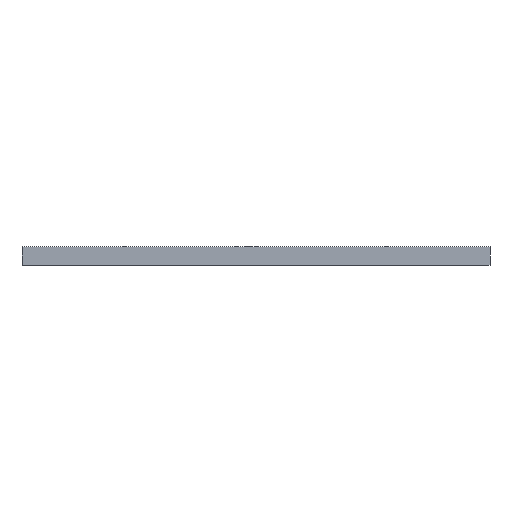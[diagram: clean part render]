
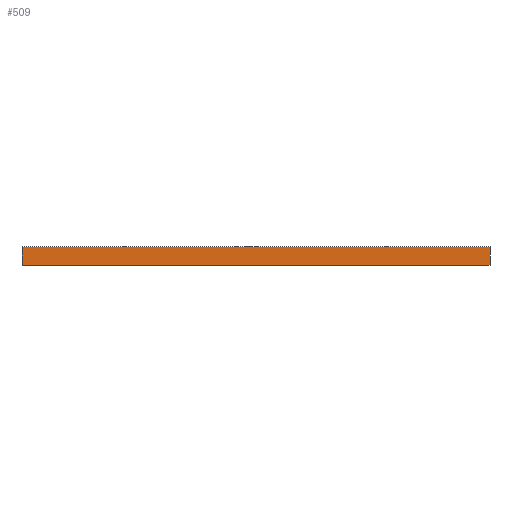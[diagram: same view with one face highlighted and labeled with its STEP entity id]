
A CAD part, front view. The second image highlights one B-rep face of the part: STEP entity #509.
In plain terms, the highlighted planar face has unit normal (0, -1, 0).
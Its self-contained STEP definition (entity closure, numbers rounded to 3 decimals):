
#21 = EDGE_CURVE('',#22,#24,#26,.T.);
#22 = VERTEX_POINT('',#23);
#23 = CARTESIAN_POINT('',(0.,0.,18.));
#24 = VERTEX_POINT('',#25);
#25 = CARTESIAN_POINT('',(464.,0.,18.));
#26 = SURFACE_CURVE('',#27,(#31,#43),.PCURVE_S1.);
#27 = LINE('',#28,#29);
#28 = CARTESIAN_POINT('',(0.,0.,18.));
#29 = VECTOR('',#30,1.);
#30 = DIRECTION('',(1.,0.,0.));
#31 = PCURVE('',#32,#37);
#32 = PLANE('',#33);
#33 = AXIS2_PLACEMENT_3D('',#34,#35,#36);
#34 = CARTESIAN_POINT('',(0.,0.,18.));
#35 = DIRECTION('',(0.,0.,-1.));
#36 = DIRECTION('',(1.,0.,0.));
#37 = DEFINITIONAL_REPRESENTATION('',(#38),#42);
#38 = LINE('',#39,#40);
#39 = CARTESIAN_POINT('',(0.,0.));
#40 = VECTOR('',#41,1.);
#41 = DIRECTION('',(1.,0.));
#42 = ( GEOMETRIC_REPRESENTATION_CONTEXT(2) 
PARAMETRIC_REPRESENTATION_CONTEXT() REPRESENTATION_CONTEXT('2D SPACE',''
  ) );
#43 = PCURVE('',#44,#49);
#44 = PLANE('',#45);
#45 = AXIS2_PLACEMENT_3D('',#46,#47,#48);
#46 = CARTESIAN_POINT('',(0.,0.,18.));
#47 = DIRECTION('',(0.,1.,0.));
#48 = DIRECTION('',(1.,0.,0.));
#49 = DEFINITIONAL_REPRESENTATION('',(#50),#54);
#50 = LINE('',#51,#52);
#51 = CARTESIAN_POINT('',(0.,0.));
#52 = VECTOR('',#53,1.);
#53 = DIRECTION('',(1.,0.));
#54 = ( GEOMETRIC_REPRESENTATION_CONTEXT(2) 
PARAMETRIC_REPRESENTATION_CONTEXT() REPRESENTATION_CONTEXT('2D SPACE',''
  ) );
#72 = PLANE('',#73);
#73 = AXIS2_PLACEMENT_3D('',#74,#75,#76);
#74 = CARTESIAN_POINT('',(0.,0.,18.));
#75 = DIRECTION('',(1.,0.,0.));
#76 = DIRECTION('',(0.,0.,-1.));
#126 = PLANE('',#127);
#127 = AXIS2_PLACEMENT_3D('',#128,#129,#130);
#128 = CARTESIAN_POINT('',(464.,0.,18.));
#129 = DIRECTION('',(1.,0.,0.));
#130 = DIRECTION('',(0.,0.,-1.));
#509 = ADVANCED_FACE('',(#510),#44,.F.);
#510 = FACE_BOUND('',#511,.F.);
#511 = EDGE_LOOP('',(#512,#535,#536,#559));
#512 = ORIENTED_EDGE('',*,*,#513,.F.);
#513 = EDGE_CURVE('',#22,#514,#516,.T.);
#514 = VERTEX_POINT('',#515);
#515 = CARTESIAN_POINT('',(0.,0.,0.));
#516 = SURFACE_CURVE('',#517,(#521,#528),.PCURVE_S1.);
#517 = LINE('',#518,#519);
#518 = CARTESIAN_POINT('',(0.,0.,18.));
#519 = VECTOR('',#520,1.);
#520 = DIRECTION('',(0.,0.,-1.));
#521 = PCURVE('',#44,#522);
#522 = DEFINITIONAL_REPRESENTATION('',(#523),#527);
#523 = LINE('',#524,#525);
#524 = CARTESIAN_POINT('',(0.,0.));
#525 = VECTOR('',#526,1.);
#526 = DIRECTION('',(0.,1.));
#527 = ( GEOMETRIC_REPRESENTATION_CONTEXT(2) 
PARAMETRIC_REPRESENTATION_CONTEXT() REPRESENTATION_CONTEXT('2D SPACE',''
  ) );
#528 = PCURVE('',#72,#529);
#529 = DEFINITIONAL_REPRESENTATION('',(#530),#534);
#530 = LINE('',#531,#532);
#531 = CARTESIAN_POINT('',(0.,0.));
#532 = VECTOR('',#533,1.);
#533 = DIRECTION('',(1.,0.));
#534 = ( GEOMETRIC_REPRESENTATION_CONTEXT(2) 
PARAMETRIC_REPRESENTATION_CONTEXT() REPRESENTATION_CONTEXT('2D SPACE',''
  ) );
#535 = ORIENTED_EDGE('',*,*,#21,.T.);
#536 = ORIENTED_EDGE('',*,*,#537,.T.);
#537 = EDGE_CURVE('',#24,#538,#540,.T.);
#538 = VERTEX_POINT('',#539);
#539 = CARTESIAN_POINT('',(464.,0.,0.));
#540 = SURFACE_CURVE('',#541,(#545,#552),.PCURVE_S1.);
#541 = LINE('',#542,#543);
#542 = CARTESIAN_POINT('',(464.,0.,18.));
#543 = VECTOR('',#544,1.);
#544 = DIRECTION('',(0.,0.,-1.));
#545 = PCURVE('',#44,#546);
#546 = DEFINITIONAL_REPRESENTATION('',(#547),#551);
#547 = LINE('',#548,#549);
#548 = CARTESIAN_POINT('',(464.,0.));
#549 = VECTOR('',#550,1.);
#550 = DIRECTION('',(0.,1.));
#551 = ( GEOMETRIC_REPRESENTATION_CONTEXT(2) 
PARAMETRIC_REPRESENTATION_CONTEXT() REPRESENTATION_CONTEXT('2D SPACE',''
  ) );
#552 = PCURVE('',#126,#553);
#553 = DEFINITIONAL_REPRESENTATION('',(#554),#558);
#554 = LINE('',#555,#556);
#555 = CARTESIAN_POINT('',(0.,0.));
#556 = VECTOR('',#557,1.);
#557 = DIRECTION('',(1.,0.));
#558 = ( GEOMETRIC_REPRESENTATION_CONTEXT(2) 
PARAMETRIC_REPRESENTATION_CONTEXT() REPRESENTATION_CONTEXT('2D SPACE',''
  ) );
#559 = ORIENTED_EDGE('',*,*,#560,.F.);
#560 = EDGE_CURVE('',#514,#538,#561,.T.);
#561 = SURFACE_CURVE('',#562,(#566,#573),.PCURVE_S1.);
#562 = LINE('',#563,#564);
#563 = CARTESIAN_POINT('',(0.,0.,0.));
#564 = VECTOR('',#565,1.);
#565 = DIRECTION('',(1.,0.,0.));
#566 = PCURVE('',#44,#567);
#567 = DEFINITIONAL_REPRESENTATION('',(#568),#572);
#568 = LINE('',#569,#570);
#569 = CARTESIAN_POINT('',(0.,18.));
#570 = VECTOR('',#571,1.);
#571 = DIRECTION('',(1.,0.));
#572 = ( GEOMETRIC_REPRESENTATION_CONTEXT(2) 
PARAMETRIC_REPRESENTATION_CONTEXT() REPRESENTATION_CONTEXT('2D SPACE',''
  ) );
#573 = PCURVE('',#574,#579);
#574 = PLANE('',#575);
#575 = AXIS2_PLACEMENT_3D('',#576,#577,#578);
#576 = CARTESIAN_POINT('',(0.,0.,0.));
#577 = DIRECTION('',(0.,0.,-1.));
#578 = DIRECTION('',(1.,0.,0.));
#579 = DEFINITIONAL_REPRESENTATION('',(#580),#584);
#580 = LINE('',#581,#582);
#581 = CARTESIAN_POINT('',(0.,0.));
#582 = VECTOR('',#583,1.);
#583 = DIRECTION('',(1.,0.));
#584 = ( GEOMETRIC_REPRESENTATION_CONTEXT(2) 
PARAMETRIC_REPRESENTATION_CONTEXT() REPRESENTATION_CONTEXT('2D SPACE',''
  ) );
